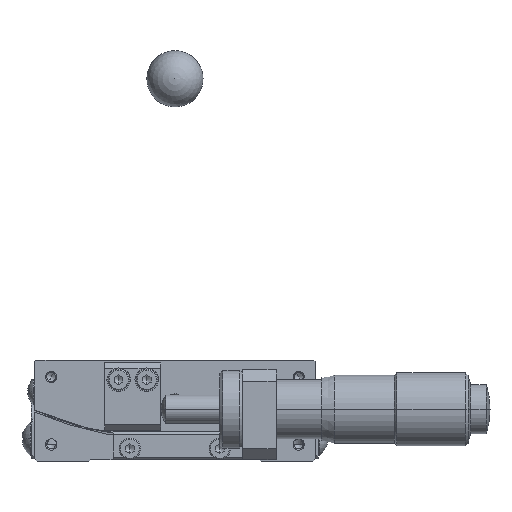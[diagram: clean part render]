
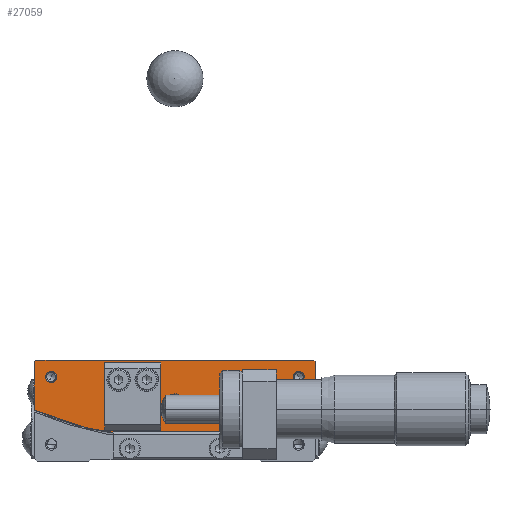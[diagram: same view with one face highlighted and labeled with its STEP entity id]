
A CAD part, front view. The second image highlights one B-rep face of the part: STEP entity #27059.
In plain terms, the highlighted planar face has unit normal (0, -1, 0).
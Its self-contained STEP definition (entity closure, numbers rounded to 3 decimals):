
#588 = CARTESIAN_POINT ( 'NONE',  ( 22.494, -25., -3.869 ) ) ;
#589 = DIRECTION ( 'NONE',  ( 0.494, 0., -0.869 ) ) ;
#590 = DIRECTION ( 'NONE',  ( 0., -1., 0. ) ) ;
#591 = CARTESIAN_POINT ( 'NONE',  ( 22., -25., -3. ) ) ;
#592 = AXIS2_PLACEMENT_3D ( 'NONE', #591, #590, #589 ) ;
#593 = CIRCLE ( 'NONE', #592, 1. ) ;
#594 = CARTESIAN_POINT ( 'NONE',  ( 21.506, -25., -2.131 ) ) ;
#11365 = CARTESIAN_POINT ( 'NONE',  ( -24.7, -25., 0. ) ) ;
#11366 = DIRECTION ( 'NONE',  ( 1., 0., 0. ) ) ;
#11367 = VECTOR ( 'NONE', #11366, 1000. ) ;
#11368 = CARTESIAN_POINT ( 'NONE',  ( -24.7, -25., 0. ) ) ;
#11369 = LINE ( 'NONE', #11368, #11367 ) ;
#11370 = CARTESIAN_POINT ( 'NONE',  ( 24.7, -25., 0. ) ) ;
#11371 = DIRECTION ( 'NONE',  ( 0.707, 0., -0.707 ) ) ;
#11372 = VECTOR ( 'NONE', #11371, 1000. ) ;
#11373 = CARTESIAN_POINT ( 'NONE',  ( 24.7, -25., 0. ) ) ;
#11374 = LINE ( 'NONE', #11373, #11372 ) ;
#11375 = CARTESIAN_POINT ( 'NONE',  ( 25., -25., -0.3 ) ) ;
#11376 = DIRECTION ( 'NONE',  ( 0., 0., -1. ) ) ;
#11377 = VECTOR ( 'NONE', #11376, 1000. ) ;
#11378 = CARTESIAN_POINT ( 'NONE',  ( 25., -25., -0.3 ) ) ;
#11379 = LINE ( 'NONE', #11378, #11377 ) ;
#11380 = CARTESIAN_POINT ( 'NONE',  ( -25., -25., -8.915 ) ) ;
#11381 = DIRECTION ( 'NONE',  ( -0.494, 0., -0.869 ) ) ;
#11382 = DIRECTION ( 'NONE',  ( 0., -1., 0. ) ) ;
#11383 = CARTESIAN_POINT ( 'NONE',  ( -22., -25., -3. ) ) ;
#11384 = AXIS2_PLACEMENT_3D ( 'NONE', #11383, #11382, #11381 ) ;
#11385 = CIRCLE ( 'NONE', #11384, 1. ) ;
#11386 = DIRECTION ( 'NONE',  ( -0.464, 0., -0.886 ) ) ;
#11387 = DIRECTION ( 'NONE',  ( 0., -1., 0. ) ) ;
#11388 = AXIS2_PLACEMENT_3D ( 'NONE', #11395, #11387, #11386 ) ;
#11389 = CIRCLE ( 'NONE', #11388, 2. ) ;
#11395 = CARTESIAN_POINT ( 'NONE',  ( 0., -25., -8. ) ) ;
#11396 = DIRECTION ( 'NONE',  ( 1., 0., 0. ) ) ;
#11397 = DIRECTION ( 'NONE',  ( 0., 1., 0. ) ) ;
#11398 = CARTESIAN_POINT ( 'NONE',  ( 0., -25., 50. ) ) ;
#11399 = AXIS2_PLACEMENT_3D ( 'NONE', #11398, #11397, #11396 ) ;
#11400 = PLANE ( 'NONE',  #11399 ) ;
#11401 = FACE_BOUND ( 'NONE', #27033, .T. ) ;
#11402 = FACE_BOUND ( 'NONE', #27029, .T. ) ;
#11403 = FACE_BOUND ( 'NONE', #27025, .T. ) ;
#11404 = FACE_BOUND ( 'NONE', #27101, .T. ) ;
#11405 = FACE_OUTER_BOUND ( 'NONE', #27060, .T. ) ;
#11421 = DIRECTION ( 'NONE',  ( 0., 0., 1. ) ) ;
#11422 = VECTOR ( 'NONE', #11421, 1000. ) ;
#11423 = CARTESIAN_POINT ( 'NONE',  ( -25., -25., -8.915 ) ) ;
#11424 = LINE ( 'NONE', #11423, #11422 ) ;
#11425 = CARTESIAN_POINT ( 'NONE',  ( -25., -25., -0.3 ) ) ;
#11426 = DIRECTION ( 'NONE',  ( 0.707, 0., 0.707 ) ) ;
#11427 = VECTOR ( 'NONE', #11426, 1000. ) ;
#11428 = CARTESIAN_POINT ( 'NONE',  ( -25., -25., -0.3 ) ) ;
#11429 = LINE ( 'NONE', #11428, #11427 ) ;
#11456 = CARTESIAN_POINT ( 'NONE',  ( 25., -25., -8.915 ) ) ;
#11457 = DIRECTION ( 'NONE',  ( 1., 0., 0. ) ) ;
#11458 = DIRECTION ( 'NONE',  ( 0., 1., 0. ) ) ;
#11459 = CARTESIAN_POINT ( 'NONE',  ( 0., -25., 50. ) ) ;
#11460 = AXIS2_PLACEMENT_3D ( 'NONE', #11459, #11458, #11457 ) ;
#11461 = CIRCLE ( 'NONE', #11460, 64. ) ;
#11462 = CARTESIAN_POINT ( 'NONE',  ( -2.5, -25., -0.5 ) ) ;
#11463 = DIRECTION ( 'NONE',  ( 1., 0., 0. ) ) ;
#11464 = VECTOR ( 'NONE', #11463, 1000. ) ;
#11465 = CARTESIAN_POINT ( 'NONE',  ( -12.5, -25., -0.5 ) ) ;
#11466 = LINE ( 'NONE', #11465, #11464 ) ;
#11467 = CARTESIAN_POINT ( 'NONE',  ( -12.5, -25., -0.5 ) ) ;
#11468 = CARTESIAN_POINT ( 'NONE',  ( -12.5, -25., -6.5 ) ) ;
#11469 = DIRECTION ( 'NONE',  ( 0., 0., 1. ) ) ;
#11470 = VECTOR ( 'NONE', #11469, 1000. ) ;
#11471 = CARTESIAN_POINT ( 'NONE',  ( -12.5, -25., -6.5 ) ) ;
#11476 = LINE ( 'NONE', #11471, #11470 ) ;
#11507 = DIRECTION ( 'NONE',  ( 0.494, 0., -0.869 ) ) ;
#11508 = DIRECTION ( 'NONE',  ( 0., -1., 0. ) ) ;
#11509 = CARTESIAN_POINT ( 'NONE',  ( 22., -25., -3. ) ) ;
#11510 = AXIS2_PLACEMENT_3D ( 'NONE', #11509, #11508, #11507 ) ;
#11511 = CIRCLE ( 'NONE', #11510, 1. ) ;
#11519 = DIRECTION ( 'NONE',  ( 1., 0., 0. ) ) ;
#11520 = VECTOR ( 'NONE', #11519, 1000. ) ;
#11521 = CARTESIAN_POINT ( 'NONE',  ( -12.5, -25., -6.5 ) ) ;
#11522 = LINE ( 'NONE', #11521, #11520 ) ;
#11523 = CARTESIAN_POINT ( 'NONE',  ( -2.5, -25., -6.5 ) ) ;
#11524 = DIRECTION ( 'NONE',  ( 0., 0., 1. ) ) ;
#11525 = VECTOR ( 'NONE', #11524, 1000. ) ;
#11526 = CARTESIAN_POINT ( 'NONE',  ( -2.5, -25., -6.5 ) ) ;
#11527 = LINE ( 'NONE', #11526, #11525 ) ;
#17734 = VERTEX_POINT ( 'NONE', #48726 ) ;
#17736 = EDGE_CURVE ( 'NONE', #17734, #17737, #48720, .T. ) ;
#17737 = VERTEX_POINT ( 'NONE', #48715 ) ;
#17804 = VERTEX_POINT ( 'NONE', #48881 ) ;
#17806 = EDGE_CURVE ( 'NONE', #17804, #17807, #48880, .T. ) ;
#17807 = VERTEX_POINT ( 'NONE', #48875 ) ;
#21280 = VERTEX_POINT ( 'NONE', #594 ) ;
#21283 = EDGE_CURVE ( 'NONE', #21280, #21285, #593, .T. ) ;
#21285 = VERTEX_POINT ( 'NONE', #588 ) ;
#27024 = ORIENTED_EDGE ( 'NONE', *, *, #21283, .F. ) ;
#27025 = EDGE_LOOP ( 'NONE', ( #27026, #27028 ) ) ;
#27026 = ORIENTED_EDGE ( 'NONE', *, *, #27027, .F. ) ;
#27027 = EDGE_CURVE ( 'NONE', #17807, #17804, #11389, .T. ) ;
#27028 = ORIENTED_EDGE ( 'NONE', *, *, #17806, .F. ) ;
#27029 = EDGE_LOOP ( 'NONE', ( #27030, #27032 ) ) ;
#27030 = ORIENTED_EDGE ( 'NONE', *, *, #27031, .F. ) ;
#27031 = EDGE_CURVE ( 'NONE', #17737, #17734, #11385, .T. ) ;
#27032 = ORIENTED_EDGE ( 'NONE', *, *, #17736, .F. ) ;
#27033 = EDGE_LOOP ( 'NONE', ( #27034, #27089, #27092, #27095 ) ) ;
#27034 = ORIENTED_EDGE ( 'NONE', *, *, #27086, .T. ) ;
#27035 = VERTEX_POINT ( 'NONE', #11380 ) ;
#27036 = ORIENTED_EDGE ( 'NONE', *, *, #27037, .F. ) ;
#27037 = EDGE_CURVE ( 'NONE', #27038, #27063, #11379, .T. ) ;
#27038 = VERTEX_POINT ( 'NONE', #11375 ) ;
#27039 = ORIENTED_EDGE ( 'NONE', *, *, #27040, .F. ) ;
#27040 = EDGE_CURVE ( 'NONE', #27041, #27038, #11374, .T. ) ;
#27041 = VERTEX_POINT ( 'NONE', #11370 ) ;
#27042 = ORIENTED_EDGE ( 'NONE', *, *, #27043, .F. ) ;
#27043 = EDGE_CURVE ( 'NONE', #27044, #27041, #11369, .T. ) ;
#27044 = VERTEX_POINT ( 'NONE', #11365 ) ;
#27045 = ORIENTED_EDGE ( 'NONE', *, *, #27046, .F. ) ;
#27046 = EDGE_CURVE ( 'NONE', #27047, #27044, #11429, .T. ) ;
#27047 = VERTEX_POINT ( 'NONE', #11425 ) ;
#27048 = ORIENTED_EDGE ( 'NONE', *, *, #27049, .F. ) ;
#27049 = EDGE_CURVE ( 'NONE', #27035, #27047, #11424, .T. ) ;
#27059 = ADVANCED_FACE ( 'NONE', ( #11405, #11404, #11403, #11402, #11401 ), #11400, .F. ) ;
#27060 = EDGE_LOOP ( 'NONE', ( #27061, #27036, #27039, #27042, #27045, #27048 ) ) ;
#27061 = ORIENTED_EDGE ( 'NONE', *, *, #27062, .F. ) ;
#27062 = EDGE_CURVE ( 'NONE', #27063, #27035, #11461, .T. ) ;
#27063 = VERTEX_POINT ( 'NONE', #11456 ) ;
#27086 = EDGE_CURVE ( 'NONE', #27087, #27088, #11476, .T. ) ;
#27087 = VERTEX_POINT ( 'NONE', #11468 ) ;
#27088 = VERTEX_POINT ( 'NONE', #11467 ) ;
#27089 = ORIENTED_EDGE ( 'NONE', *, *, #27090, .T. ) ;
#27090 = EDGE_CURVE ( 'NONE', #27088, #27091, #11466, .T. ) ;
#27091 = VERTEX_POINT ( 'NONE', #11462 ) ;
#27092 = ORIENTED_EDGE ( 'NONE', *, *, #27093, .F. ) ;
#27093 = EDGE_CURVE ( 'NONE', #27094, #27091, #11527, .T. ) ;
#27094 = VERTEX_POINT ( 'NONE', #11523 ) ;
#27095 = ORIENTED_EDGE ( 'NONE', *, *, #27096, .F. ) ;
#27096 = EDGE_CURVE ( 'NONE', #27087, #27094, #11522, .T. ) ;
#27101 = EDGE_LOOP ( 'NONE', ( #27102, #27024 ) ) ;
#27102 = ORIENTED_EDGE ( 'NONE', *, *, #27103, .F. ) ;
#27103 = EDGE_CURVE ( 'NONE', #21285, #21280, #11511, .T. ) ;
#48715 = CARTESIAN_POINT ( 'NONE',  ( -22.494, -25., -3.869 ) ) ;
#48716 = DIRECTION ( 'NONE',  ( -0.494, 0., -0.869 ) ) ;
#48717 = DIRECTION ( 'NONE',  ( 0., -1., 0. ) ) ;
#48718 = CARTESIAN_POINT ( 'NONE',  ( -22., -25., -3. ) ) ;
#48719 = AXIS2_PLACEMENT_3D ( 'NONE', #48718, #48717, #48716 ) ;
#48720 = CIRCLE ( 'NONE', #48719, 1. ) ;
#48726 = CARTESIAN_POINT ( 'NONE',  ( -21.506, -25., -2.131 ) ) ;
#48875 = CARTESIAN_POINT ( 'NONE',  ( -0.927, -25., -9.772 ) ) ;
#48876 = DIRECTION ( 'NONE',  ( -0.464, 0., -0.886 ) ) ;
#48877 = DIRECTION ( 'NONE',  ( 0., -1., 0. ) ) ;
#48878 = CARTESIAN_POINT ( 'NONE',  ( 0., -25., -8. ) ) ;
#48879 = AXIS2_PLACEMENT_3D ( 'NONE', #48878, #48877, #48876 ) ;
#48880 = CIRCLE ( 'NONE', #48879, 2. ) ;
#48881 = CARTESIAN_POINT ( 'NONE',  ( 0.927, -25., -6.228 ) ) ;
